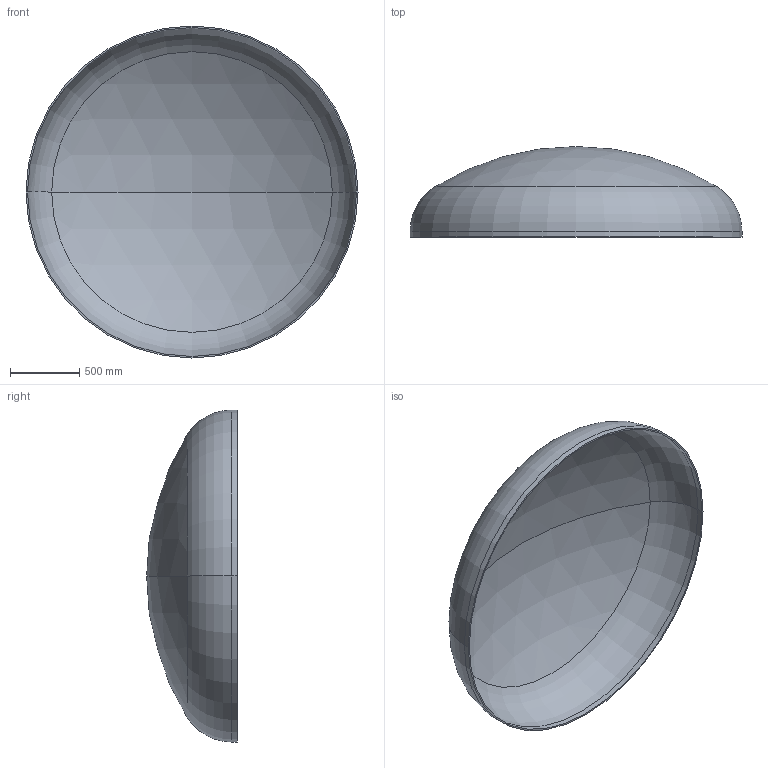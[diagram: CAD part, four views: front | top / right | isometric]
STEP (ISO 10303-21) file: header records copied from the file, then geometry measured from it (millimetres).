
FILE_DESCRIPTION (( 'STEP AP203' ), '1' );
FILE_NAME ('DIN 28013 Korbbogenform_-_Boden DIN 28013 - 2400 x 40 - I - s=11.step', '2016-07-01T15:04:50', ( '' ), ( '' ), 'SwSTEP 2.0', 'SolidWorks 2013', '' );
FILE_SCHEMA (( 'CONFIG_CONTROL_DESIGN' ));
Length unit declared in the file: millimetre
Products named in the file (1): DIN 28013 Korbbogenform_-_Boden DIN 28013 - 2400 x 40 - I - s=11
Bounding box: 2400 x 655.04 x 2400 mm (x, y, z)
Volume: 71824056.6 mm3; surface area: 13141725.6 mm2
Topology: 1 solids, 1 shells, 13 faces, 24 edges, 14 vertices
Faces by surface type: torus 4, cylinder 4, sphere 4, plane 1
Entity records: 407 total; most frequent: DIRECTION 72, CARTESIAN_POINT 52, ORIENTED_EDGE 48, AXIS2_PLACEMENT_3D 34, EDGE_CURVE 24, CIRCLE 20, EDGE_LOOP 14, VERTEX_POINT 14
